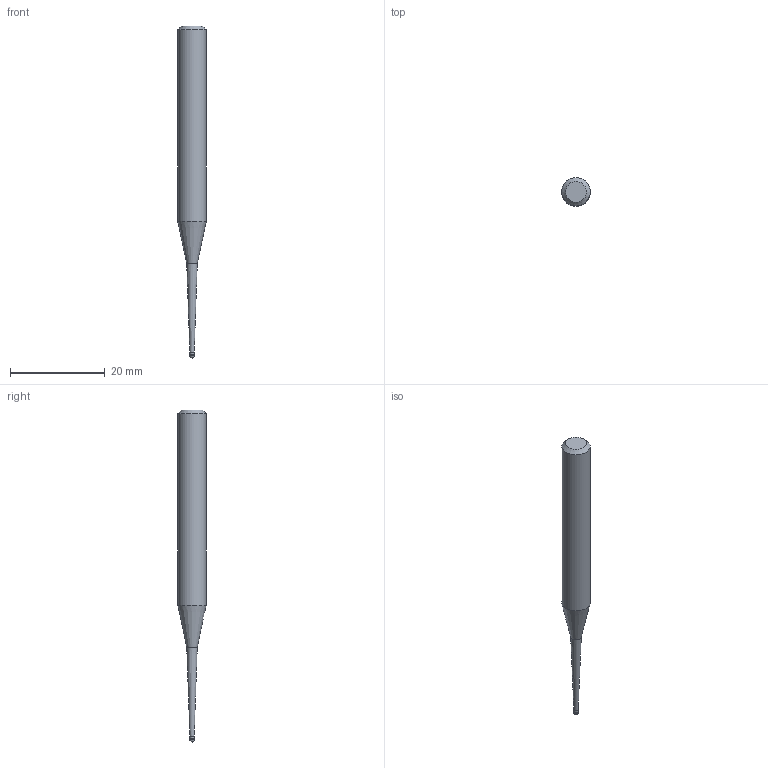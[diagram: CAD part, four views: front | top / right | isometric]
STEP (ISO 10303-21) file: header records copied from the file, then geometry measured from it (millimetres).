
FILE_DESCRIPTION((''),'2;1');
FILE_NAME('C:\Users\nsx150\AppData\Local\Temp\Mastercam 2021\E0ENTZRV18\TEMP.step','2021-09-02T09:56:15',(''),(''),'STEP Write','Mastercam 2021 ... CNC Software, Inc.','');
FILE_SCHEMA(('AUTOMOTIVE_DESIGN'));
Length unit declared in the file: millimetre
Products named in the file (1): None
Bounding box: 6 x 6 x 70 mm (x, y, z)
Volume: 1322.8 mm3; surface area: 1008.7 mm2
Topology: 2 solids, 2 shells, 10 faces, 16 edges, 9 vertices
Faces by surface type: plane 3, cylinder 3, cone 3, sphere 1
Full cylindrical faces by diameter (mm): 0.905 x1, 1 x1, 6 x1
Entity records: 232 total; most frequent: DIRECTION 40, CARTESIAN_POINT 28, AXIS2_PLACEMENT_3D 20, ORIENTED_EDGE 16, EDGE_LOOP 16, STYLED_ITEM 13, ADVANCED_FACE 10, FACE_BOUND 9
